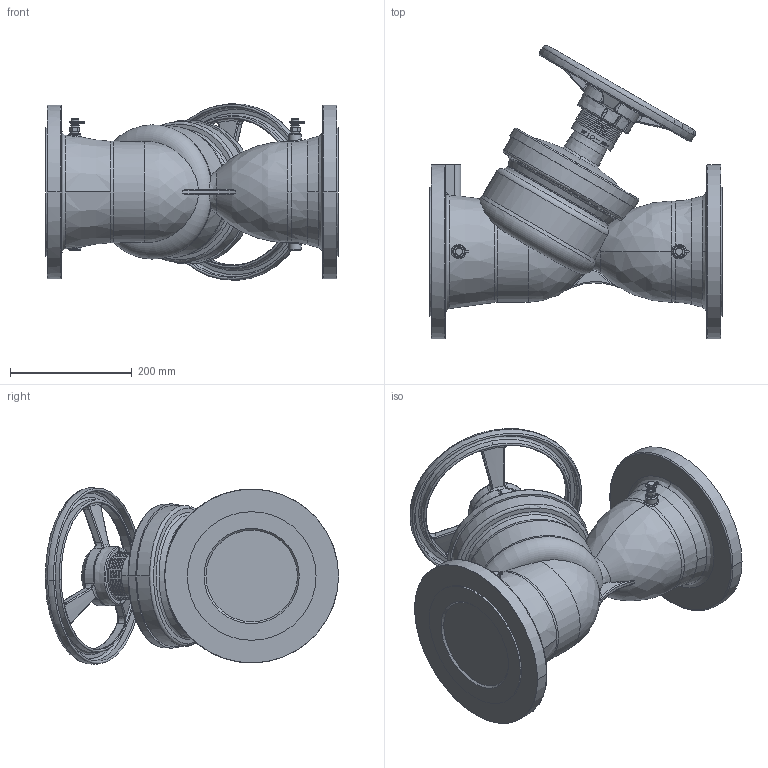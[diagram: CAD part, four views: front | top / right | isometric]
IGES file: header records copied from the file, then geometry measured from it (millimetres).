
Global section: file name: No Iges File Name specified; native system: AutoDesk Inventor R12.0; preprocessor: AutoDesk Inventor Iges Exporter R12.0; date: 20110118.121557; units: millimetre
Bounding box: 480 x 480.68 x 289.42 mm (x, y, z)
Surface area: 1126914.7 mm2 (no closed solid volume)
Topology: 0 solids, 1 shells, 1053 faces, 2777 edges, 1777 vertices
Faces by surface type: plane 374, bspline 309, revolution 138, cylinder 125, torus 62, cone 45
